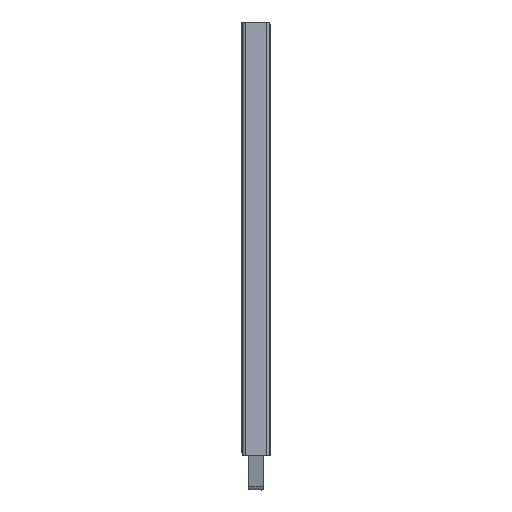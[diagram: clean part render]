
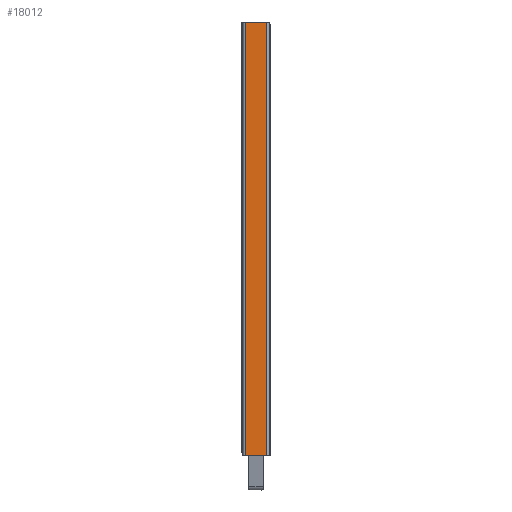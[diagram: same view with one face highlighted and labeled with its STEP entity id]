
A CAD part, left-side view. The second image highlights one B-rep face of the part: STEP entity #18012.
In plain terms, the highlighted planar face has unit normal (-1, 0, 0).
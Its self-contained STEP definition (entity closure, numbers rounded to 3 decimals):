
#833 = CARTESIAN_POINT ( 'NONE',  ( -25.35, -7.575, -150. ) ) ;
#1261 = LINE ( 'NONE', #14325, #6739 ) ;
#1534 = DIRECTION ( 'NONE',  ( 1., 0., 0. ) ) ;
#1629 = EDGE_CURVE ( 'NONE', #3358, #6879, #16064, .T. ) ;
#2328 = CARTESIAN_POINT ( 'NONE',  ( -25.35, 7.575, -150. ) ) ;
#2453 = CARTESIAN_POINT ( 'NONE',  ( -25.35, -7.575, 150. ) ) ;
#3358 = VERTEX_POINT ( 'NONE', #2328 ) ;
#3792 = CARTESIAN_POINT ( 'NONE',  ( -25.35, 7.575, 150. ) ) ;
#3880 = PLANE ( 'NONE',  #12026 ) ;
#3994 = LINE ( 'NONE', #12637, #14338 ) ;
#5326 = VERTEX_POINT ( 'NONE', #3792 ) ;
#5503 = DIRECTION ( 'NONE',  ( 0., -1., 0. ) ) ;
#6023 = DIRECTION ( 'NONE',  ( 0., 0., -1. ) ) ;
#6739 = VECTOR ( 'NONE', #16399, 1000. ) ;
#6879 = VERTEX_POINT ( 'NONE', #833 ) ;
#8245 = CARTESIAN_POINT ( 'NONE',  ( -25.35, 7.575, 150. ) ) ;
#11126 = EDGE_CURVE ( 'NONE', #5326, #3358, #16588, .T. ) ;
#11406 = EDGE_CURVE ( 'NONE', #21566, #6879, #3994, .T. ) ;
#12026 = AXIS2_PLACEMENT_3D ( 'NONE', #12372, #1534, #27221 ) ;
#12111 = FACE_OUTER_BOUND ( 'NONE', #23313, .T. ) ;
#12372 = CARTESIAN_POINT ( 'NONE',  ( -25.35, 7.575, 150. ) ) ;
#12637 = CARTESIAN_POINT ( 'NONE',  ( -25.35, -7.575, 150. ) ) ;
#13058 = ORIENTED_EDGE ( 'NONE', *, *, #1629, .T. ) ;
#14325 = CARTESIAN_POINT ( 'NONE',  ( -25.35, 7.575, 150. ) ) ;
#14338 = VECTOR ( 'NONE', #25655, 1000. ) ;
#16025 = VECTOR ( 'NONE', #5503, 1000. ) ;
#16064 = LINE ( 'NONE', #24784, #16025 ) ;
#16399 = DIRECTION ( 'NONE',  ( 0., -1., 0. ) ) ;
#16448 = ORIENTED_EDGE ( 'NONE', *, *, #11406, .F. ) ;
#16588 = LINE ( 'NONE', #8245, #24087 ) ;
#18012 = ADVANCED_FACE ( 'NONE', ( #12111 ), #3880, .F. ) ;
#18724 = ORIENTED_EDGE ( 'NONE', *, *, #11126, .T. ) ;
#20372 = EDGE_CURVE ( 'NONE', #5326, #21566, #1261, .T. ) ;
#21566 = VERTEX_POINT ( 'NONE', #2453 ) ;
#23313 = EDGE_LOOP ( 'NONE', ( #13058, #16448, #24062, #18724 ) ) ;
#24062 = ORIENTED_EDGE ( 'NONE', *, *, #20372, .F. ) ;
#24087 = VECTOR ( 'NONE', #6023, 1000. ) ;
#24784 = CARTESIAN_POINT ( 'NONE',  ( -25.35, 7.575, -150. ) ) ;
#25655 = DIRECTION ( 'NONE',  ( 0., 0., -1. ) ) ;
#27221 = DIRECTION ( 'NONE',  ( 0., 1., 0. ) ) ;
